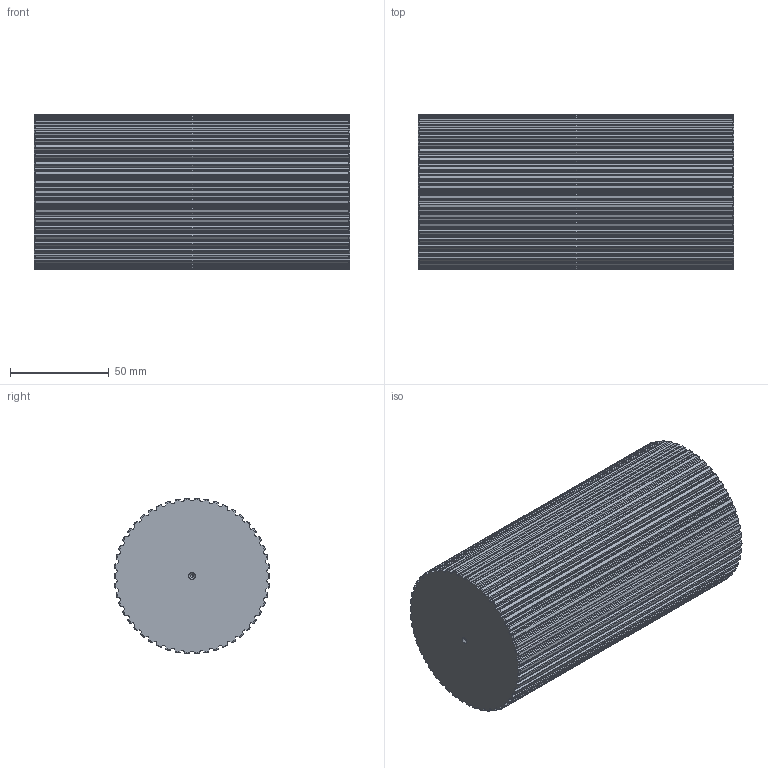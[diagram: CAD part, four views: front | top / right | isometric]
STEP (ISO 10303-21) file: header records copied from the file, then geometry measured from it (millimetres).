
FILE_DESCRIPTION(('STEP AP203'),'1');
FILE_NAME('bart_50.stp','2022-04-21T07:22:19',('TraceParts'),('TraceParts S.A.'),'Spatial InterOp 3D',' ',' ');
FILE_SCHEMA(('CONFIG_CONTROL_DESIGN'));
Length unit declared in the file: millimetre
Products named in the file (1): 1
Bounding box: 160 x 79.08 x 79 mm (x, y, z)
Volume: 761566.1 mm3; surface area: 60798.9 mm2
Topology: 1 solids, 1 shells, 520 faces, 1546 edges, 1026 vertices
Faces by surface type: cylinder 306, cone 112, plane 102
Entity records: 18786 total; most frequent: CARTESIAN_POINT 5289, ORIENTED_EDGE 3084, DIRECTION 2708, EDGE_CURVE 1542, AXIS2_PLACEMENT_3D 1045, VERTEX_POINT 1026, LINE 618, VECTOR 618
